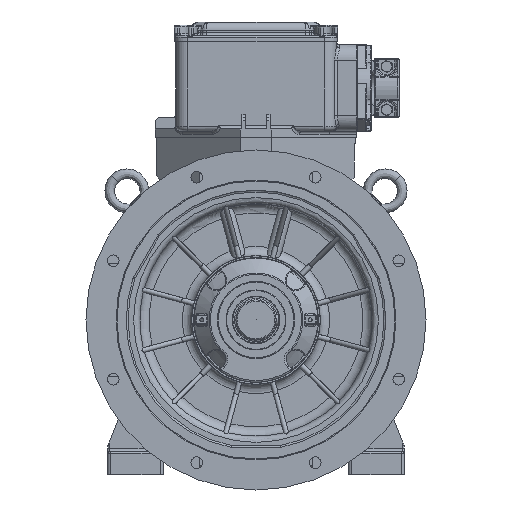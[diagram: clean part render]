
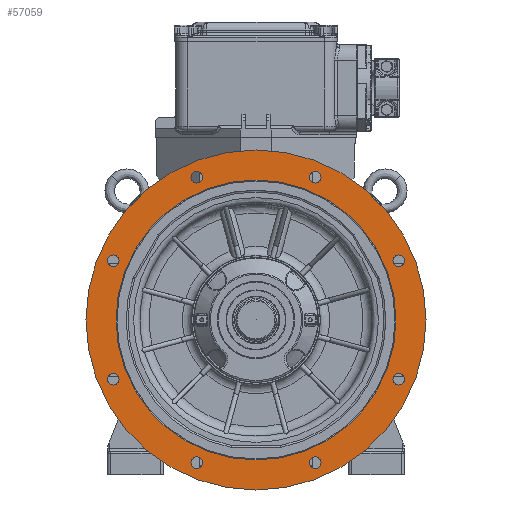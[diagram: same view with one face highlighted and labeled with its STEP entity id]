
A CAD part, left-side view. The second image highlights one B-rep face of the part: STEP entity #57059.
In plain terms, the highlighted planar face has unit normal (-1, 0, 0).
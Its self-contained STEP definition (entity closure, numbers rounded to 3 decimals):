
#4179=CIRCLE('',#60908,9.5);
#4181=CIRCLE('',#60911,9.5);
#4183=CIRCLE('',#60914,9.5);
#4185=CIRCLE('',#60917,9.5);
#4187=CIRCLE('',#60920,9.5);
#4189=CIRCLE('',#60923,9.5);
#4191=CIRCLE('',#60926,9.5);
#4193=CIRCLE('',#60929,9.5);
#4207=CIRCLE('',#60947,226.4);
#4208=CIRCLE('',#60948,275.);
#14071=ORIENTED_EDGE('',*,*,#21523,.F.);
#14072=ORIENTED_EDGE('',*,*,#21525,.F.);
#14073=ORIENTED_EDGE('',*,*,#21527,.F.);
#14074=ORIENTED_EDGE('',*,*,#21529,.F.);
#14075=ORIENTED_EDGE('',*,*,#21531,.F.);
#14076=ORIENTED_EDGE('',*,*,#21533,.F.);
#14077=ORIENTED_EDGE('',*,*,#21535,.F.);
#14078=ORIENTED_EDGE('',*,*,#21537,.F.);
#14079=ORIENTED_EDGE('',*,*,#21554,.T.);
#14080=ORIENTED_EDGE('',*,*,#21555,.F.);
#21523=EDGE_CURVE('',#25778,#25778,#4179,.T.);
#21525=EDGE_CURVE('',#25780,#25780,#4181,.T.);
#21527=EDGE_CURVE('',#25782,#25782,#4183,.T.);
#21529=EDGE_CURVE('',#25784,#25784,#4185,.T.);
#21531=EDGE_CURVE('',#25786,#25786,#4187,.T.);
#21533=EDGE_CURVE('',#25788,#25788,#4189,.T.);
#21535=EDGE_CURVE('',#25790,#25790,#4191,.T.);
#21537=EDGE_CURVE('',#25792,#25792,#4193,.T.);
#21554=EDGE_CURVE('',#25809,#25809,#4207,.T.);
#21555=EDGE_CURVE('',#25810,#25810,#4208,.F.);
#25778=VERTEX_POINT('',#90161);
#25780=VERTEX_POINT('',#90166);
#25782=VERTEX_POINT('',#90171);
#25784=VERTEX_POINT('',#90176);
#25786=VERTEX_POINT('',#90181);
#25788=VERTEX_POINT('',#90186);
#25790=VERTEX_POINT('',#90191);
#25792=VERTEX_POINT('',#90196);
#25809=VERTEX_POINT('',#90234);
#25810=VERTEX_POINT('',#90236);
#34367=EDGE_LOOP('',(#14071));
#34368=EDGE_LOOP('',(#14072));
#34369=EDGE_LOOP('',(#14073));
#34370=EDGE_LOOP('',(#14074));
#34371=EDGE_LOOP('',(#14075));
#34372=EDGE_LOOP('',(#14076));
#34373=EDGE_LOOP('',(#14077));
#34374=EDGE_LOOP('',(#14078));
#34375=EDGE_LOOP('',(#14079));
#34376=EDGE_LOOP('',(#14080));
#36939=FACE_BOUND('',#34367,.T.);
#36940=FACE_BOUND('',#34368,.T.);
#36941=FACE_BOUND('',#34369,.T.);
#36942=FACE_BOUND('',#34370,.T.);
#36943=FACE_BOUND('',#34371,.T.);
#36944=FACE_BOUND('',#34372,.T.);
#36945=FACE_BOUND('',#34373,.T.);
#36946=FACE_BOUND('',#34374,.T.);
#36947=FACE_BOUND('',#34375,.T.);
#36948=FACE_BOUND('',#34376,.T.);
#38332=PLANE('',#60946);
#57059=ADVANCED_FACE('',(#36939,#36940,#36941,#36942,#36943,#36944,#36945,
#36946,#36947,#36948),#38332,.T.);
#60908=AXIS2_PLACEMENT_3D('',#90160,#70926,#70927);
#60911=AXIS2_PLACEMENT_3D('',#90165,#70932,#70933);
#60914=AXIS2_PLACEMENT_3D('',#90170,#70938,#70939);
#60917=AXIS2_PLACEMENT_3D('',#90175,#70944,#70945);
#60920=AXIS2_PLACEMENT_3D('',#90180,#70950,#70951);
#60923=AXIS2_PLACEMENT_3D('',#90185,#70956,#70957);
#60926=AXIS2_PLACEMENT_3D('',#90190,#70962,#70963);
#60929=AXIS2_PLACEMENT_3D('',#90195,#70968,#70969);
#60946=AXIS2_PLACEMENT_3D('',#90232,#71005,#71006);
#60947=AXIS2_PLACEMENT_3D('',#90233,#71007,#71008);
#60948=AXIS2_PLACEMENT_3D('',#90235,#71009,#71010);
#70926=DIRECTION('',(-1.,0.,0.));
#70927=DIRECTION('',(0.,-1.,0.));
#70932=DIRECTION('',(-1.,0.,0.));
#70933=DIRECTION('',(0.,-1.,0.));
#70938=DIRECTION('',(-1.,0.,0.));
#70939=DIRECTION('',(0.,-1.,0.));
#70944=DIRECTION('',(-1.,0.,0.));
#70945=DIRECTION('',(0.,-1.,0.));
#70950=DIRECTION('',(-1.,0.,0.));
#70951=DIRECTION('',(0.,-1.,0.));
#70956=DIRECTION('',(-1.,0.,0.));
#70957=DIRECTION('',(0.,-1.,0.));
#70962=DIRECTION('',(-1.,0.,0.));
#70963=DIRECTION('',(0.,-1.,0.));
#70968=DIRECTION('',(-1.,0.,0.));
#70969=DIRECTION('',(0.,-1.,0.));
#71005=DIRECTION('',(-1.,0.,0.));
#71006=DIRECTION('',(0.,0.,1.));
#71007=DIRECTION('',(1.,0.,0.));
#71008=DIRECTION('',(0.,0.,-1.));
#71009=DIRECTION('',(-1.,0.,0.));
#71010=DIRECTION('',(0.,0.,1.));
#90160=CARTESIAN_POINT('',(-90.,-230.97,95.671));
#90161=CARTESIAN_POINT('',(-90.,-240.47,95.671));
#90165=CARTESIAN_POINT('',(-90.,-230.97,-95.671));
#90166=CARTESIAN_POINT('',(-90.,-240.47,-95.671));
#90170=CARTESIAN_POINT('',(-90.,-95.671,-230.97));
#90171=CARTESIAN_POINT('',(-90.,-105.171,-230.97));
#90175=CARTESIAN_POINT('',(-90.,95.671,-230.97));
#90176=CARTESIAN_POINT('',(-90.,86.171,-230.97));
#90180=CARTESIAN_POINT('',(-90.,230.97,-95.671));
#90181=CARTESIAN_POINT('',(-90.,221.47,-95.671));
#90185=CARTESIAN_POINT('',(-90.,230.97,95.671));
#90186=CARTESIAN_POINT('',(-90.,221.47,95.671));
#90190=CARTESIAN_POINT('',(-90.,95.671,230.97));
#90191=CARTESIAN_POINT('',(-90.,86.171,230.97));
#90195=CARTESIAN_POINT('',(-90.,-95.671,230.97));
#90196=CARTESIAN_POINT('',(-90.,-105.171,230.97));
#90232=CARTESIAN_POINT('',(-90.,0.,-280.019));
#90233=CARTESIAN_POINT('',(-90.,0.,0.));
#90234=CARTESIAN_POINT('',(-90.,0.,-226.4));
#90235=CARTESIAN_POINT('',(-90.,0.,0.));
#90236=CARTESIAN_POINT('',(-90.,0.,275.));
